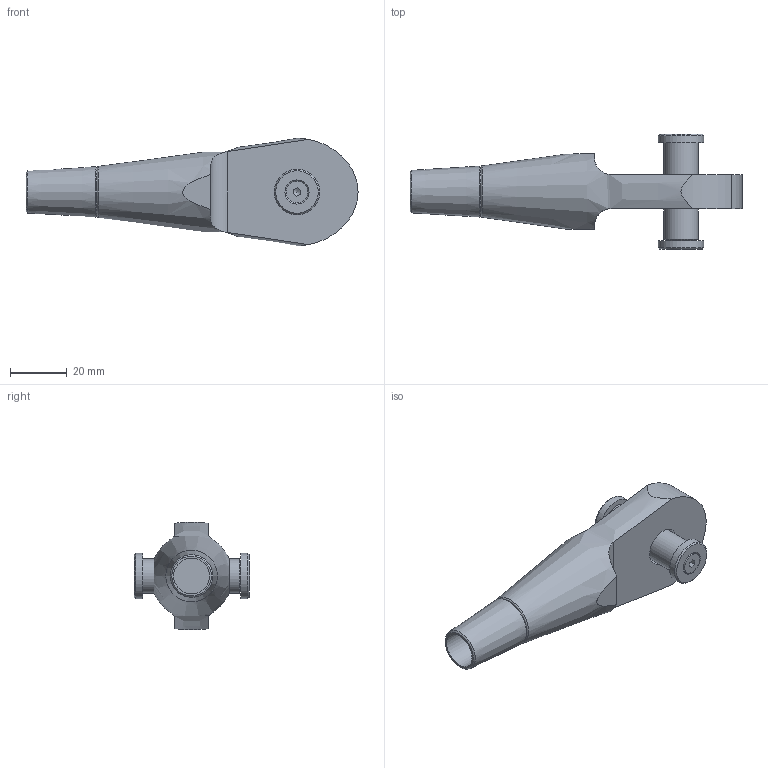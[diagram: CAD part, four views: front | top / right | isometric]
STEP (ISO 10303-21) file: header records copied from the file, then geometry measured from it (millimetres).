
FILE_DESCRIPTION(/* description */ (''),/* implementation_level */ '2;1');
FILE_NAME(/* name */ 'G:\Engineering\700 CAD\Internet-PX-1-step-igs-dxf\520-OES-Arbeitsdateien\520-012-OES.stp',/* time_stamp */ '2020-06-26T10:09:09+02:00',/* author */ ('schwarz'),/* organization */ (''),/* preprocessor_version */ 'ST-DEVELOPER v16.1',/* originating_system */ 'Autodesk Inventor 2016',/* authorisation */ '');
FILE_SCHEMA (('AUTOMOTIVE_DESIGN { 1 0 10303 214 3 1 1 }'));
Length unit declared in the file: centimetre
Products named in the file (1): 520-012-OES-KMU-Kunde
Bounding box: 117 x 40.78 x 37.82 mm (x, y, z)
Volume: 44056.6 mm3; surface area: 12726.6 mm2
Topology: 2 solids, 3 shells, 49 faces, 108 edges, 70 vertices
Faces by surface type: plane 22, cylinder 14, cone 12, torus 1
Full cylindrical faces by diameter (mm): 3.242 x1, 4 x1, 4.5 x1, 7.53 x1, 12 x1, 12.6 x1, 13.5 x1, 16 x2
Entity records: 1342 total; most frequent: CARTESIAN_POINT 304, DIRECTION 198, ORIENTED_EDGE 158, AXIS2_PLACEMENT_3D 89, EDGE_CURVE 79, EDGE_LOOP 78, VERTEX_POINT 63, STYLED_ITEM 51
